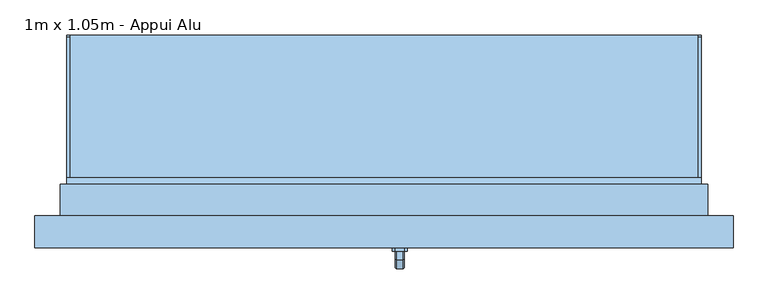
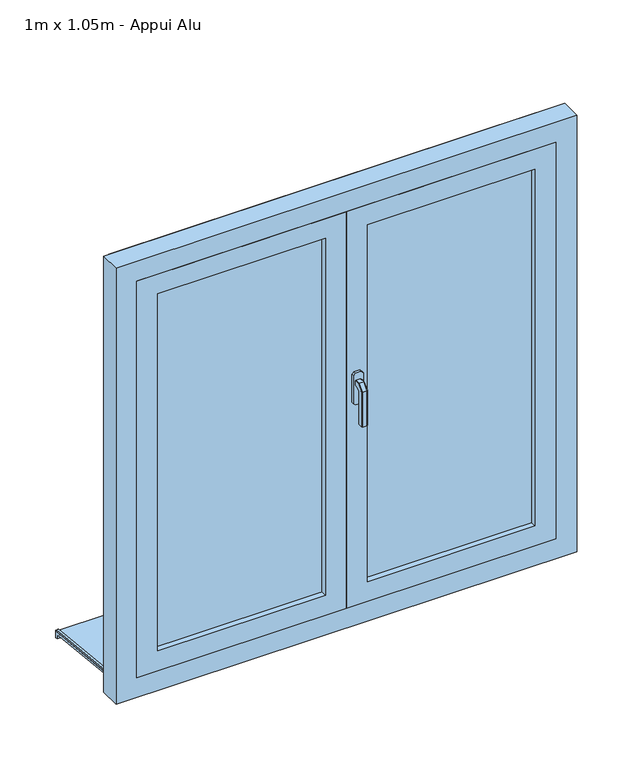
"""IFC4 building model written with IfcOpenShell, lengths in millimetres: window geometry, 2 Vantaux - Droits : 1m x 1.05m - Appui Alu."""

from ifc_helpers import new_model, si_unit, point, frame, frame_2d, origin, place, context, project, spatial, polyline, circle_curve, trimmed, segment, composite_curve, outline, extrude, faceted_brep, source, transform, mapped, element, save


def window_1m_x_1_05m_appui_alu_b6acc50f(model_context):
    return source(origin(), model_context, "Body", "SolidModel", [
        faceted_brep([(30.6460097, -166.0, 1422.0339292), (32.0339292, -166.0, 1420.6460097), (32.0339292, -166.0, 1409.3323012), (30.6676988, -166.0, 1407.9660708), (19.3323012, -166.0, 1407.9660708), (17.9660708, -166.0, 1409.3323012), (17.9660708, -166.0, 1420.6460097), (19.3539903, -166.0, 1422.0339292), (30.6460097, -178.9135489, 1422.0339292), (32.0339292, -178.3386538, 1420.6460097), (32.0339292, -191.6460097, 1407.3386538), (32.0339292, -191.6460097, 1320.0), (32.0339292, -180.3323012, 1320.0), (32.0339292, -180.3323012, 1402.6523623), (32.0339292, -173.6523623, 1409.3323012), (30.6676988, -173.0864511, 1407.9660708), (19.3323012, -173.0864511, 1407.9660708), (17.9660708, -173.6523623, 1409.3323012), (17.9660708, -180.3323012, 1402.6523623), (17.9660708, -180.3323012, 1320.0), (17.9660708, -191.6460097, 1320.0), (17.9660708, -191.6460097, 1407.3386538), (17.9660708, -178.3386538, 1420.6460097), (19.3539903, -178.9135489, 1422.0339292), (30.6460097, -193.0339292, 1407.9135489), (30.6676988, -178.9660708, 1402.0864511), (19.3323012, -178.9660708, 1402.0864511), (19.3539903, -193.0339292, 1407.9135489), (30.6460097, -193.0339292, 1320.0), (19.3539903, -193.0339292, 1320.0), (19.3323012, -178.9660708, 1320.0), (30.6676988, -178.9660708, 1320.0)], [[[0, 1, 2, 3, 4, 5, 6, 7]], [[1, 0, 8, 9]], [[2, 1, 9, 10, 11, 12, 13, 14]], [[3, 2, 14, 15]], [[4, 3, 15, 16]], [[5, 4, 16, 17]], [[6, 5, 17, 18, 19, 20, 21, 22]], [[7, 6, 22, 23]], [[0, 7, 23, 8]], [[9, 8, 24, 10]], [[15, 14, 13, 25]], [[16, 15, 25, 26]], [[17, 16, 26, 18]], [[23, 22, 21, 27]], [[8, 23, 27, 24]], [[28, 29, 20, 19, 30, 31, 12, 11]], [[10, 24, 28, 11]], [[25, 13, 12, 31]], [[26, 25, 31, 30]], [[18, 26, 30, 19]], [[27, 21, 20, 29]], [[24, 27, 29, 28]]]),
        extrude(outline(polyline([(1440.0, 32.0), (1440.0, 18.0), (1435.0, 13.0), (1365.0, 13.0), (1360.0, 18.0), (1360.0, 32.0), (1365.0, 37.0), (1435.0, 37.0), (1440.0, 32.0)])), frame((0.0, -166.0, 0.0), z_axis=(0.0, 1.0, 0.0), x_axis=(0.0, 0.0, 1.0)), (0.0, 0.0, 1.0), 6.0),
        extrude(outline(polyline([(175.0, 763.4536318), (175.0, 747.8979153), (170.0, 748.4234365), (170.0, 758.7239412), (-80.0, 785.0), (-80.0, 800.0), (-75.0, 800.0), (-75.0, 789.7296906), (175.0, 763.4536318)])), frame((-500.0, 0.0, 0.0), z_axis=(1.0, 0.0, 0.0), x_axis=(0.0, 1.0, 0.0)), (0.0, 0.0, 1.0), 1000.0),
        extrude(outline(composite_curve([segment(polyline([(175.0, 763.4536318), (-75.0, 789.7296906), (-75.0, 794.757232), (171.4181139, 768.8576446)]), True, "CONTINUOUS"), segment(trimmed(circle_curve(frame_2d((171.0, 764.879557)), 4.0), [point((171.4181139, 768.8576446))], [point((175.0, 764.879557))], False, "CARTESIAN"), True, "CONTINUOUS"), segment(polyline([(175.0, 764.879557), (175.0, 763.4536318)]), True, "CONTINUOUS")], self_intersect=False)), frame((-500.0, 0.0, 0.0), z_axis=(1.0, 0.0, 0.0), x_axis=(0.0, 1.0, 0.0)), (0.0, 0.0, 1.0), 5.0),
        extrude(outline(composite_curve([segment(polyline([(175.0, 763.4536318), (-75.0, 789.7296906), (-75.0, 794.757232), (171.4181139, 768.8576446)]), True, "CONTINUOUS"), segment(trimmed(circle_curve(frame_2d((171.0, 764.879557)), 4.0), [point((171.4181139, 768.8576446))], [point((175.0, 764.879557))], False, "CARTESIAN"), True, "CONTINUOUS"), segment(polyline([(175.0, 764.879557), (175.0, 763.4536318)]), True, "CONTINUOUS")], self_intersect=False)), frame((495.0, 0.0, 0.0), z_axis=(1.0, 0.0, 0.0), x_axis=(0.0, 1.0, 0.0)), (0.0, 0.0, 1.0), 5.0),
        extrude(outline(polyline([(850.0, 0.0), (1850.0, 0.0), (1850.0, -500.0), (850.0, -500.0), (850.0, 0.0)]), holes=[polyline([(900.0, -450.0), (1800.0, -450.0), (1800.0, -50.0), (900.0, -50.0), (900.0, -450.0)])]), frame((0.0, -160.0, 0.0), z_axis=(0.0, 1.0, 0.0), x_axis=(0.0, 0.0, 1.0)), (0.0, 0.0, 1.0), 40.0),
        extrude(outline(polyline([(50.0, -134.0), (450.0, -134.0), (450.0, -146.0), (50.0, -146.0), (50.0, -134.0)])), frame((0.0, 0.0, 900.0), z_axis=(0.0, 0.0, 1.0), x_axis=(1.0, 0.0, 0.0)), (0.0, 0.0, 1.0), 900.0),
        extrude(outline(polyline([(-450.0, -134.0), (-50.0, -134.0), (-50.0, -146.0), (-450.0, -146.0), (-450.0, -134.0)])), frame((0.0, 0.0, 900.0), z_axis=(0.0, 0.0, 1.0), x_axis=(1.0, 0.0, 0.0)), (0.0, 0.0, 1.0), 900.0),
        extrude(outline(polyline([(850.0, 500.0), (1850.0, 500.0), (1850.0, 0.0), (850.0, 0.0), (850.0, 500.0)]), holes=[polyline([(900.0, 50.0), (1800.0, 50.0), (1800.0, 450.0), (900.0, 450.0), (900.0, 50.0)])]), frame((0.0, -160.0, 0.0), z_axis=(0.0, 1.0, 0.0), x_axis=(0.0, 0.0, 1.0)), (0.0, 0.0, 1.0), 40.0),
        faceted_brep([(-550.0, -160.0, 800.0), (-550.0, -110.0, 800.0), (-500.0, -110.0, 800.0), (-500.0, -60.0, 800.0), (500.0, -60.0, 800.0), (500.0, -110.0, 800.0), (550.0, -110.0, 800.0), (550.0, -160.0, 800.0), (-550.0, -160.0, 1900.0), (-550.0, -110.0, 1900.0), (550.0, -110.0, 1900.0), (500.0, -110.0, 839.3761425), (-500.0, -110.0, 839.3761425), (-485.0, -110.0, 1835.0), (-485.0, -110.0, 865.0), (485.0, -110.0, 865.0), (485.0, -110.0, 1835.0), (-500.0, -50.0, 823.2991909), (-500.0, -50.0, 795.0), (-500.0, -60.0, 795.0), (500.0, -60.0, 795.0), (500.0, -50.0, 795.0), (500.0, -50.0, 823.2991909), (550.0, -160.0, 1900.0), (500.0, -160.0, 1850.0), (500.0, -160.0, 850.0), (-500.0, -160.0, 850.0), (-500.0, -160.0, 1850.0), (-485.0, -120.0, 1835.0), (-485.0, -120.0, 865.0), (485.0, -120.0, 865.0), (485.0, -120.0, 1835.0), (500.0, -120.0, 1850.0), (-500.0, -120.0, 1850.0), (-500.0, -120.0, 850.0), (500.0, -120.0, 850.0)], [[[0, 1, 2, 3, 4, 5, 6, 7]], [[1, 0, 8, 9]], [[1, 9, 10, 6, 5, 11, 12, 2], [13, 14, 15, 16]], [[12, 17, 18, 19, 3, 2]], [[3, 19, 20, 4]], [[4, 20, 21, 22, 11, 5]], [[6, 10, 23, 7]], [[0, 7, 23, 8], [24, 25, 26, 27]], [[13, 28, 29, 14]], [[29, 30, 15, 14]], [[31, 16, 15, 30]], [[17, 12, 11, 22]], [[32, 33, 34, 35], [28, 31, 30, 29]], [[34, 33, 27, 26]], [[26, 25, 35, 34]], [[24, 32, 35, 25]], [[18, 17, 22, 21]], [[19, 18, 21, 20]], [[13, 16, 31, 28]], [[33, 32, 24, 27]], [[10, 9, 8, 23]]]),
        extrude(outline(polyline([(800.0, -510.0), (800.0, -500.0), (1850.0, -500.0), (1850.0, 500.0), (800.0, 500.0), (800.0, 510.0), (1860.0, 510.0), (1860.0, -510.0), (800.0, -510.0)])), frame((0.0, -110.0, 0.0), z_axis=(0.0, 1.0, 0.0), x_axis=(0.0, 0.0, 1.0)), (0.0, 0.0, 1.0), 50.0),
        extrude(outline(polyline([(20.0, -112.0), (20.0, -120.0), (-20.0, -120.0), (-20.0, -112.0), (20.0, -112.0)])), frame((0.0, 0.0, 865.0), z_axis=(0.0, 0.0, 1.0), x_axis=(1.0, 0.0, 0.0)), (0.0, 0.0, 1.0), 970.0),
    ])


if __name__ == "__main__":
    model = new_model("IFC4")
    model_context = context("Model", 3, world=origin())
    ifc_project = project(units=[si_unit("LENGTHUNIT", "METRE", prefix="MILLI")], contexts=[model_context])
    site = spatial("IfcSite", under=ifc_project)
    building = spatial("IfcBuilding", under=site)
    placement = place(None, origin())
    window_1m_x_1_05m_appui_alu_shape = window_1m_x_1_05m_appui_alu_b6acc50f(model_context)
    element("IfcWindow", 1, ObjectType="2 Vantaux - Droits : 1m x 1.05m - Appui Alu", at=placement, inside=building, context=model_context, shape_type="MappedRepresentation", body=[
        mapped(window_1m_x_1_05m_appui_alu_shape, transform((0.0, 0.0, 0.0), x_axis=(1.0, 0.0, 0.0), y_axis=(0.0, 1.0, 0.0), z_axis=(0.0, 0.0, 1.0))),
    ])
    save(model, "model.ifc")
